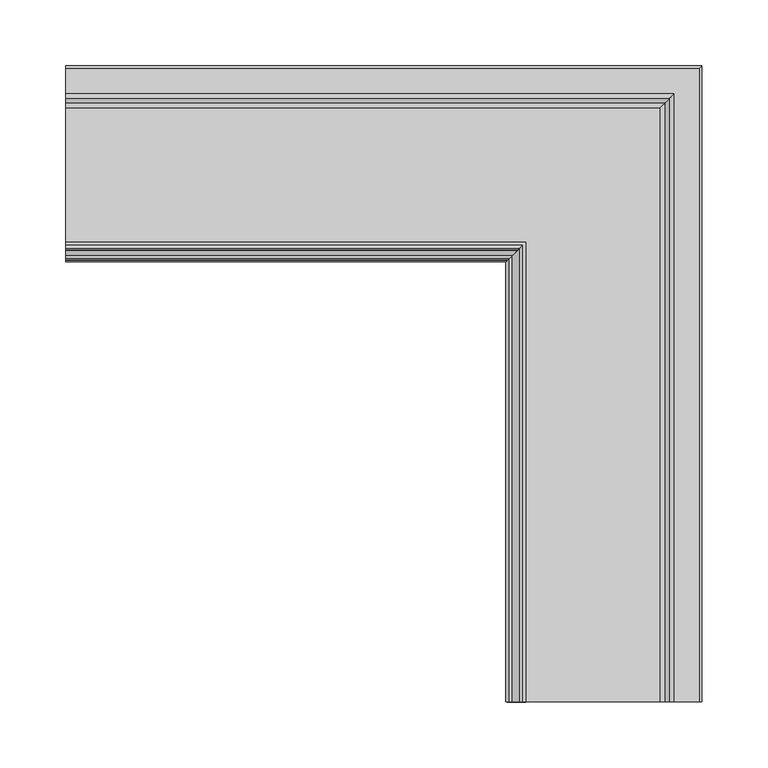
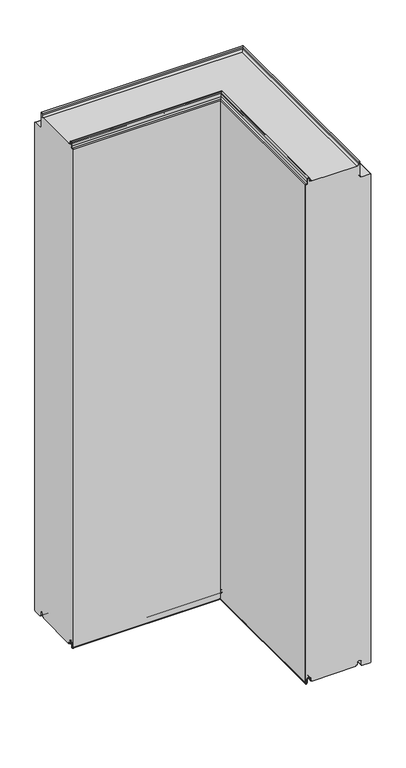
"""IFC4 building model written with IfcOpenShell, lengths in millimetres: plate geometry, Угловой модуль Fronttop : Угловой модуль Fronttop 150/1200."""

from ifc_helpers import new_model, si_unit, frame, origin, place, context, project, spatial, polyline, circle_curve, ellipse_curve, source, transform, mapped, element, save
from ifc_brep_helpers import plane_surface, cylinder_surface, revolved_surface, advanced_brep


def plate_a08c5f0f(model_context):
    return source(origin(), model_context, "Body", "AdvancedBrep", [
        advanced_brep(
        [(-234.5, 15.0, 3.0), (-234.5, 13.0, 3.0), (-234.5, 12.0, 4.0), (-234.5, 12.0, 8.0), (-234.5, 3.0, 8.0), (-234.5, 3.0, -0.5), (-234.5, 1.0, -0.5), (-234.5, 1.0, 1195.0278643), (-234.5, 2.1111111, 1196.0216723), (-234.5, 6.0, 1199.5), (-234.5, 6.0, 1208.0), (-234.5, 9.0, 1208.0), (-234.5, 9.0, 1204.0), (-234.5, 13.0, 1200.0), (-234.5, 117.0, 1200.0), (-234.5, 121.0, 1204.0), (-234.5, 121.0, 1208.0), (-234.5, 124.0, 1208.0), (-234.5, 124.0, 1175.0), (-234.5, 128.0, 1171.0), (-234.5, 147.0, 1171.0), (-234.5, 149.0, 1169.0), (-234.5, 149.0, 0.0), (-234.5, 147.0, -2.0), (-234.5, 129.0, -2.0), (-234.5, 127.0, 0.0), (-234.5, 127.0, 8.0), (-234.5, 118.0, 8.0), (-234.5, 118.0, 4.0), (-234.5, 117.0, 3.0), (-234.5, 115.0, 3.0), (-234.5, 115.0, 0.0), (-234.5, 15.0, 0.0), (115.0, 15.0, 0.0), (115.0, 15.0, 3.0), (215.0, 115.0, 0.0), (215.0, -334.5, 0.0), (115.0, -334.5, 0.0), (215.0, 115.0, 3.0), (217.0, 117.0, 3.0), (217.0, -334.5, 3.0), (215.0, -334.5, 3.0), (218.0, 118.0, 4.0), (218.0, 118.0, 8.0), (227.0, 127.0, 8.0), (227.0, 127.0, 0.0), (229.0, 129.0, -2.0), (247.0, 147.0, -2.0), (247.0, -334.5, -2.0), (229.0, -334.5, -2.0), (249.0, 149.0, 0.0), (249.0, 149.0, 1169.0), (247.0, 147.0, 1171.0), (228.0, 128.0, 1171.0), (228.0, -334.5, 1171.0), (247.0, -334.5, 1171.0), (224.0, 124.0, 1175.0), (224.0, 124.0, 1208.0), (221.0, 121.0, 1208.0), (221.0, 121.0, 1204.0), (217.0, 117.0, 1200.0), (113.0, 13.0, 1200.0), (113.0, -334.5, 1200.0), (217.0, -334.5, 1200.0), (109.0, 9.0, 1204.0), (109.0, 9.0, 1208.0), (106.0, 6.0, 1208.0), (106.0, 6.0, 1199.5), (102.1111111, 2.1111111, 1196.021672), (101.0, 1.0, 1195.0278643), (101.0, 1.0, -0.5), (103.0, 3.0, -0.5), (103.0, 3.0, 8.0), (112.0, 12.0, 8.0), (112.0, 12.0, 4.0), (113.0, 13.0, 3.0), (115.0, -334.5, 3.0), (113.0, -334.5, 3.0), (218.0, -334.5, 4.0), (218.0, -334.5, 8.0), (227.0, -334.5, 8.0), (227.0, -334.5, 0.0), (249.0, -334.5, 0.0), (249.0, -334.5, 1169.0), (224.0, -334.5, 1175.0), (224.0, -334.5, 1208.0), (221.0, -334.5, 1208.0), (221.0, -334.5, 1204.0), (109.0, -334.5, 1204.0), (109.0, -334.5, 1208.0), (106.0, -334.5, 1208.0), (106.0, -334.5, 1199.5), (102.1111111, -334.5, 1196.021672), (101.0, -334.5, 1195.0278643), (101.0, -334.5, -0.5), (103.0, -334.5, -0.5), (103.0, -334.5, 8.0), (112.0, -334.5, 8.0), (112.0, -334.5, 4.0)],
        [
            (0, 1),
            (1, 2, circle_curve(frame((-234.5, 13.0, 4.0), z_axis=(-1.0, 0.0, 0.0), x_axis=(0.0, -1.0, 0.0)), 1.0)),
            (2, 3),
            (3, 4, circle_curve(frame((-234.5, 7.5, 8.0), z_axis=(1.0, 0.0, 0.0), x_axis=(0.0, -1.0, 0.0)), 4.5)),
            (4, 5),
            (5, 6, circle_curve(frame((-234.5, 2.0, -0.5), z_axis=(-1.0, 0.0, 0.0), x_axis=(0.0, -1.0, 0.0)), 1.0)),
            (6, 7),
            (7, 8, circle_curve(frame((-234.5, 2.0, 1195.0278643), z_axis=(-1.0, 0.0, 0.0), x_axis=(0.0, -1.0, 0.0)), 1.0)),
            (8, 9, circle_curve(frame((-234.5, 2.5, 1199.5), z_axis=(1.0, 0.0, 0.0), x_axis=(0.0, -1.0, 0.0)), 3.5)),
            (9, 10),
            (10, 11, circle_curve(frame((-234.5, 7.5, 1208.0), z_axis=(-1.0, 0.0, 0.0), x_axis=(0.0, -1.0, 0.0)), 1.5)),
            (11, 12),
            (12, 13, circle_curve(frame((-234.5, 13.0, 1204.0), z_axis=(1.0, 0.0, 0.0), x_axis=(0.0, -1.0, 0.0)), 4.0)),
            (13, 14),
            (14, 15, circle_curve(frame((-234.5, 117.0, 1204.0), z_axis=(1.0, 0.0, 0.0), x_axis=(0.0, -1.0, 0.0)), 4.0)),
            (15, 16),
            (16, 17, circle_curve(frame((-234.5, 122.5, 1208.0), z_axis=(-1.0, 0.0, 0.0), x_axis=(0.0, -1.0, 0.0)), 1.5)),
            (17, 18),
            (18, 19, circle_curve(frame((-234.5, 128.0, 1175.0), z_axis=(1.0, 0.0, 0.0), x_axis=(0.0, -1.0, 0.0)), 4.0)),
            (19, 20),
            (20, 21, circle_curve(frame((-234.5, 147.0, 1169.0), z_axis=(-1.0, 0.0, 0.0), x_axis=(0.0, -1.0, 0.0)), 2.0)),
            (21, 22),
            (22, 23, circle_curve(frame((-234.5, 147.0, 0.0), z_axis=(-1.0, 0.0, 0.0), x_axis=(0.0, -1.0, 0.0)), 2.0)),
            (23, 24),
            (24, 25, circle_curve(frame((-234.5, 129.0, 0.0), z_axis=(-1.0, 0.0, 0.0), x_axis=(0.0, -1.0, 0.0)), 2.0)),
            (25, 26),
            (26, 27, circle_curve(frame((-234.5, 122.5, 8.0), z_axis=(1.0, 0.0, 0.0), x_axis=(0.0, -1.0, 0.0)), 4.5)),
            (27, 28),
            (28, 29, circle_curve(frame((-234.5, 117.0, 4.0), z_axis=(-1.0, 0.0, 0.0), x_axis=(0.0, -1.0, 0.0)), 1.0)),
            (29, 30),
            (30, 31),
            (31, 32),
            (32, 0),
            (32, 33),
            (33, 34),
            (34, 0),
            (31, 35),
            (35, 36),
            (36, 37),
            (37, 33),
            (30, 38),
            (38, 35),
            (29, 39),
            (39, 40),
            (40, 41),
            (41, 38),
            (28, 42),
            (42, 39, ellipse_curve(frame((217.0, 117.0, 4.0), z_axis=(-0.7071067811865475, 0.7071067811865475, 0.0), x_axis=(-0.7071067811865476, -0.7071067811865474, 0.0)), 1.4142136, 1.0)),
            (27, 43),
            (43, 42),
            (26, 44),
            (44, 43, ellipse_curve(frame((222.5, 122.5, 8.0), z_axis=(0.7071067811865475, -0.7071067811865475, 0.0), x_axis=(0.7071067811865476, 0.7071067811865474, 0.0)), 6.363961, 4.5)),
            (25, 45),
            (45, 44),
            (24, 46),
            (46, 45, ellipse_curve(frame((229.0, 129.0, 0.0), z_axis=(-0.7071067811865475, 0.7071067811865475, 0.0), x_axis=(-0.7071067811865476, -0.7071067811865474, 0.0)), 2.8284271, 2.0)),
            (23, 47),
            (47, 48),
            (48, 49),
            (49, 46),
            (22, 50),
            (50, 47, ellipse_curve(frame((247.0, 147.0, 0.0), z_axis=(-0.7071067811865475, 0.7071067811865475, 0.0), x_axis=(-0.7071067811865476, -0.7071067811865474, 0.0)), 2.8284271, 2.0)),
            (21, 51),
            (51, 50),
            (20, 52),
            (52, 51, ellipse_curve(frame((247.0, 147.0, 1169.0), z_axis=(-0.7071067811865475, 0.7071067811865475, 0.0), x_axis=(-0.7071067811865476, -0.7071067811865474, 0.0)), 2.8284271, 2.0)),
            (19, 53),
            (53, 54),
            (54, 55),
            (55, 52),
            (18, 56),
            (56, 53, ellipse_curve(frame((228.0, 128.0, 1175.0), z_axis=(0.7071067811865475, -0.7071067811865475, 0.0), x_axis=(0.7071067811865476, 0.7071067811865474, 0.0)), 5.6568542, 4.0)),
            (17, 57),
            (57, 56),
            (16, 58),
            (58, 57, ellipse_curve(frame((222.5, 122.5, 1208.0), z_axis=(-0.7071067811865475, 0.7071067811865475, 0.0), x_axis=(-0.7071067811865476, -0.7071067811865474, 0.0)), 2.1213203, 1.5)),
            (15, 59),
            (59, 58),
            (14, 60),
            (60, 59, ellipse_curve(frame((217.0, 117.0, 1204.0), z_axis=(0.7071067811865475, -0.7071067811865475, 0.0), x_axis=(0.7071067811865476, 0.7071067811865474, 0.0)), 5.6568542, 4.0)),
            (13, 61),
            (61, 62),
            (62, 63),
            (63, 60),
            (12, 64),
            (64, 61, ellipse_curve(frame((113.0, 13.0, 1204.0), z_axis=(0.7071067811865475, -0.7071067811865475, 0.0), x_axis=(0.7071067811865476, 0.7071067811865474, 0.0)), 5.6568542, 4.0)),
            (11, 65),
            (65, 64),
            (10, 66),
            (66, 65, ellipse_curve(frame((107.5, 7.5, 1208.0), z_axis=(-0.7071067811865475, 0.7071067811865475, 0.0), x_axis=(-0.7071067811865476, -0.7071067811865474, 0.0)), 2.1213204, 1.5)),
            (9, 67),
            (67, 66),
            (8, 68),
            (68, 67, ellipse_curve(frame((102.5, 2.5, 1199.5), z_axis=(0.7071067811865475, -0.7071067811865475, 0.0), x_axis=(0.7071067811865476, 0.7071067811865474, 0.0)), 4.9497475, 3.5)),
            (7, 69),
            (69, 68, ellipse_curve(frame((102.0, 2.0, 1195.0278643), z_axis=(-0.7071067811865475, 0.7071067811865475, 0.0), x_axis=(-0.7071067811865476, -0.7071067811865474, 0.0)), 1.4142136, 1.0)),
            (6, 70),
            (70, 69),
            (5, 71),
            (71, 70, ellipse_curve(frame((102.0, 2.0, -0.5), z_axis=(-0.7071067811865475, 0.7071067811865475, 0.0), x_axis=(-0.7071067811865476, -0.7071067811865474, 0.0)), 1.4142136, 1.0)),
            (4, 72),
            (72, 71),
            (3, 73),
            (73, 72, ellipse_curve(frame((107.5, 7.5, 8.0), z_axis=(0.7071067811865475, -0.7071067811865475, 0.0), x_axis=(0.7071067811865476, 0.7071067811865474, 0.0)), 6.363961, 4.5)),
            (2, 74),
            (74, 73),
            (1, 75),
            (75, 74, ellipse_curve(frame((113.0, 13.0, 4.0), z_axis=(-0.7071067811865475, 0.7071067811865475, 0.0), x_axis=(-0.7071067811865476, -0.7071067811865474, 0.0)), 1.4142136, 1.0)),
            (34, 76),
            (76, 77),
            (77, 75),
            (76, 37),
            (36, 41),
            (40, 78, circle_curve(frame((217.0, -334.5, 4.0), z_axis=(0.0, -1.0, 0.0), x_axis=(-1.0, 0.0, 0.0)), 1.0)),
            (78, 79),
            (79, 80, circle_curve(frame((222.5, -334.5, 8.0), z_axis=(0.0, 1.0, 0.0), x_axis=(-1.0, 0.0, 0.0)), 4.5)),
            (80, 81),
            (81, 49, circle_curve(frame((229.0, -334.5, 0.0), z_axis=(0.0, -1.0, 0.0), x_axis=(-1.0, 0.0, 0.0)), 2.0)),
            (48, 82, circle_curve(frame((247.0, -334.5, 0.0), z_axis=(0.0, -1.0, 0.0), x_axis=(-1.0, 0.0, 0.0)), 2.0)),
            (82, 83),
            (83, 55, circle_curve(frame((247.0, -334.5, 1169.0), z_axis=(0.0, -1.0, 0.0), x_axis=(-1.0, 0.0, 0.0)), 2.0)),
            (54, 84, circle_curve(frame((228.0, -334.5, 1175.0), z_axis=(0.0, 1.0, 0.0), x_axis=(-1.0, 0.0, 0.0)), 4.0)),
            (84, 85),
            (85, 86, circle_curve(frame((222.5, -334.5, 1208.0), z_axis=(0.0, -1.0, 0.0), x_axis=(-1.0, 0.0, 0.0)), 1.5)),
            (86, 87),
            (87, 63, circle_curve(frame((217.0, -334.5, 1204.0), z_axis=(0.0, 1.0, 0.0), x_axis=(-1.0, 0.0, 0.0)), 4.0)),
            (62, 88, circle_curve(frame((113.0, -334.5, 1204.0), z_axis=(0.0, 1.0, 0.0), x_axis=(-1.0, 0.0, 0.0)), 4.0)),
            (88, 89),
            (89, 90, circle_curve(frame((107.5, -334.5, 1208.0), z_axis=(0.0, -1.0, 0.0), x_axis=(-1.0, 0.0, 0.0)), 1.5)),
            (90, 91),
            (91, 92, circle_curve(frame((102.5, -334.5, 1199.5), z_axis=(0.0, 1.0, 0.0), x_axis=(-1.0, 0.0, 0.0)), 3.5)),
            (92, 93, circle_curve(frame((102.0, -334.5, 1195.0278643), z_axis=(0.0, -1.0, 0.0), x_axis=(-1.0, 0.0, 0.0)), 1.0)),
            (93, 94),
            (94, 95, circle_curve(frame((102.0, -334.5, -0.5), z_axis=(0.0, -1.0, 0.0), x_axis=(-1.0, 0.0, 0.0)), 1.0)),
            (95, 96),
            (96, 97, circle_curve(frame((107.5, -334.5, 8.0), z_axis=(0.0, 1.0, 0.0), x_axis=(-1.0, 0.0, 0.0)), 4.5)),
            (97, 98),
            (98, 77, circle_curve(frame((113.0, -334.5, 4.0), z_axis=(0.0, -1.0, 0.0), x_axis=(-1.0, 0.0, 0.0)), 1.0)),
            (42, 78),
            (43, 79),
            (44, 80),
            (45, 81),
            (50, 82),
            (51, 83),
            (56, 84),
            (57, 85),
            (58, 86),
            (59, 87),
            (64, 88),
            (65, 89),
            (66, 90),
            (67, 91),
            (68, 92),
            (69, 93),
            (70, 94),
            (71, 95),
            (72, 96),
            (73, 97),
            (74, 98),
        ],
        [
            plane_surface(frame((-234.5, 0.0, 0.0), z_axis=(-1.0, 0.0, 0.0), x_axis=(0.0, 0.0, 1.0))),
            plane_surface(frame((-234.5, 15.0, 0.0), z_axis=(0.0, -1.0, 0.0), x_axis=(1.0, 0.0, 0.0))),
            plane_surface(frame((-234.5, 115.0, 0.0), z_axis=(0.0, 0.0, -1.0), x_axis=(1.0, 0.0, 0.0))),
            plane_surface(frame((-234.5, 115.0, 3.0), z_axis=(0.0, 1.0, 0.0), x_axis=(1.0, 0.0, 0.0))),
            plane_surface(frame((-234.5, 117.0, 3.0), z_axis=(0.0, 0.0, -1.0), x_axis=(1.0, 0.0, 0.0))),
            cylinder_surface(frame((-234.5, 117.0, 4.0), z_axis=(-1.0, 0.0, 0.0), x_axis=(0.0, -1.0, 0.0)), 1.0),
            plane_surface(frame((-234.5, 118.0, 8.0), z_axis=(0.0, 1.0, 0.0), x_axis=(1.0, 0.0, 0.0))),
            revolved_surface(polyline([(227.0, 118.0, 8.0), (-234.5, 118.0, 8.0)]), (-234.5, 122.5, 8.0), (1.0, 0.0, 0.0)),
            plane_surface(frame((-234.5, 127.0, 0.0), z_axis=(0.0, -1.0, 0.0), x_axis=(1.0, 0.0, 0.0))),
            cylinder_surface(frame((-234.5, 129.0, 0.0), z_axis=(-1.0, 0.0, 0.0), x_axis=(0.0, -1.0, 0.0)), 2.0),
            plane_surface(frame((-234.5, 147.0, -2.0), z_axis=(0.0, 0.0, -1.0), x_axis=(1.0, 0.0, 0.0))),
            cylinder_surface(frame((-234.5, 147.0, 0.0), z_axis=(-1.0, 0.0, 0.0), x_axis=(0.0, -1.0, 0.0)), 2.0),
            plane_surface(frame((-234.5, 149.0, 1169.0), z_axis=(0.0, 1.0, 0.0), x_axis=(1.0, 0.0, 0.0))),
            cylinder_surface(frame((-234.5, 147.0, 1169.0), z_axis=(-1.0, 0.0, 0.0), x_axis=(0.0, -1.0, 0.0)), 2.0),
            plane_surface(frame((-234.5, 128.0, 1171.0), z_axis=(0.0, 0.0, 1.0), x_axis=(1.0, 0.0, 0.0))),
            revolved_surface(polyline([(231.9999999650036, 124.0, 1175.0), (-234.5, 124.0, 1175.0)]), (-234.5, 128.0, 1175.0), (1.0, 0.0, 0.0)),
            plane_surface(frame((-234.5, 124.0, 1208.0), z_axis=(0.0, 1.0, 0.0), x_axis=(1.0, 0.0, 0.0))),
            cylinder_surface(frame((-234.5, 122.5, 1208.0), z_axis=(-1.0, 0.0, 0.0), x_axis=(0.0, -1.0, 0.0)), 1.5),
            plane_surface(frame((-234.5, 121.0, 1204.0), z_axis=(0.0, -1.0, 0.0), x_axis=(1.0, 0.0, 0.0))),
            revolved_surface(polyline([(221.0, 113.0, 1204.0), (-234.5, 113.0, 1204.0)]), (-234.5, 117.0, 1204.0), (1.0, 0.0, 0.0)),
            plane_surface(frame((-234.5, 13.0, 1200.0), z_axis=(0.0, 0.0, 1.0), x_axis=(1.0, 0.0, 0.0))),
            revolved_surface(polyline([(116.99999996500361, 9.0, 1204.0), (-234.5, 9.0, 1204.0)]), (-234.5, 13.0, 1204.0), (1.0, 0.0, 0.0)),
            plane_surface(frame((-234.5, 9.0, 1208.0), z_axis=(0.0, 1.0, 0.0), x_axis=(1.0, 0.0, 0.0))),
            cylinder_surface(frame((-234.5, 7.5, 1208.0), z_axis=(-1.0, 0.0, 0.0), x_axis=(0.0, -1.0, 0.0)), 1.5),
            plane_surface(frame((-234.5, 6.0, 1199.5), z_axis=(0.0, -1.0, 0.0), x_axis=(1.0, 0.0, 0.0))),
            revolved_surface(polyline([(106.00000002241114, -1.0, 1199.5), (-234.5, -1.0, 1199.5)]), (-234.5, 2.5, 1199.5), (1.0, 0.0, 0.0)),
            cylinder_surface(frame((-234.5, 2.0, 1195.0278643), z_axis=(-1.0, 0.0, 0.0), x_axis=(0.0, -1.0, 0.0)), 1.0),
            plane_surface(frame((-234.5, 1.0, -0.5), z_axis=(0.0, -1.0, 0.0), x_axis=(1.0, 0.0, 0.0))),
            cylinder_surface(frame((-234.5, 2.0, -0.5), z_axis=(-1.0, 0.0, 0.0), x_axis=(0.0, -1.0, 0.0)), 1.0),
            plane_surface(frame((-234.5, 3.0, 8.0), z_axis=(0.0, 1.0, 0.0), x_axis=(1.0, 0.0, 0.0))),
            revolved_surface(polyline([(112.0, 3.0, 8.0), (-234.5, 3.0, 8.0)]), (-234.5, 7.5, 8.0), (1.0, 0.0, 0.0)),
            plane_surface(frame((-234.5, 12.0, 4.0), z_axis=(0.0, -1.0, 0.0), x_axis=(1.0, 0.0, 0.0))),
            cylinder_surface(frame((-234.5, 13.0, 4.0), z_axis=(-1.0, 0.0, 0.0), x_axis=(0.0, -1.0, 0.0)), 1.0),
            plane_surface(frame((-234.5, 15.0, 3.0), z_axis=(0.0, 0.0, -1.0), x_axis=(1.0, 0.0, 0.0))),
            plane_surface(frame((100.0, -334.5, 0.0), z_axis=(0.0, -1.0, 0.0), x_axis=(0.0, 0.0, 1.0))),
            plane_surface(frame((115.0, 15.0, 0.0), z_axis=(-1.0, 0.0, 0.0), x_axis=(0.0, -1.0, 0.0))),
            plane_surface(frame((215.0, 115.0, 3.0), z_axis=(1.0, 0.0, 0.0), x_axis=(0.0, -1.0, 0.0))),
            cylinder_surface(frame((217.0, 0.0, 4.0), z_axis=(0.0, 1.0, 0.0), x_axis=(-1.0, 0.0, 0.0)), 1.0),
            plane_surface(frame((218.0, 118.0, 8.0), z_axis=(1.0, 0.0, 0.0), x_axis=(0.0, -1.0, 0.0))),
            revolved_surface(polyline([(218.0, -334.5, 8.0), (218.0, 127.0, 8.0)]), (222.5, 0.0, 8.0), (0.0, -1.0, 0.0)),
            plane_surface(frame((227.0, 127.0, 0.0), z_axis=(-1.0, 0.0, 0.0), x_axis=(0.0, -1.0, 0.0))),
            cylinder_surface(frame((229.0, 0.0, 0.0), z_axis=(0.0, 1.0, 0.0), x_axis=(-1.0, 0.0, 0.0)), 2.0),
            cylinder_surface(frame((247.0, 0.0, 0.0), z_axis=(0.0, 1.0, 0.0), x_axis=(-1.0, 0.0, 0.0)), 2.0),
            plane_surface(frame((249.0, 149.0, 1169.0), z_axis=(1.0, 0.0, 0.0), x_axis=(0.0, -1.0, 0.0))),
            cylinder_surface(frame((247.0, 0.0, 1169.0), z_axis=(0.0, 1.0, 0.0), x_axis=(-1.0, 0.0, 0.0)), 2.0),
            revolved_surface(polyline([(224.0, -334.5, 1175.0), (224.0, 131.9999999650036, 1175.0)]), (228.0, 0.0, 1175.0), (0.0, -1.0, 0.0)),
            plane_surface(frame((224.0, 124.0, 1208.0), z_axis=(1.0, 0.0, 0.0), x_axis=(0.0, -1.0, 0.0))),
            cylinder_surface(frame((222.5, 0.0, 1208.0), z_axis=(0.0, 1.0, 0.0), x_axis=(-1.0, 0.0, 0.0)), 1.5),
            plane_surface(frame((221.0, 121.0, 1204.0), z_axis=(-1.0, 0.0, 0.0), x_axis=(0.0, -1.0, 0.0))),
            revolved_surface(polyline([(213.0, -334.5, 1204.0), (213.0, 121.0, 1204.0)]), (217.0, 0.0, 1204.0), (0.0, -1.0, 0.0)),
            revolved_surface(polyline([(109.0, -334.5, 1204.0), (109.0, 16.999999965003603, 1204.0)]), (113.0, 0.0, 1204.0), (0.0, -1.0, 0.0)),
            plane_surface(frame((109.0, 9.0, 1208.0), z_axis=(1.0, 0.0, 0.0), x_axis=(0.0, -1.0, 0.0))),
            cylinder_surface(frame((107.5, 0.0, 1208.0), z_axis=(0.0, 1.0, 0.0), x_axis=(-1.0, 0.0, 0.0)), 1.5),
            plane_surface(frame((106.0, 6.0, 1199.5), z_axis=(-1.0, 0.0, 0.0), x_axis=(0.0, -1.0, 0.0))),
            revolved_surface(polyline([(99.0, -334.5, 1199.5), (99.0, 6.000000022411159, 1199.5)]), (102.5, 0.0, 1199.5), (0.0, -1.0, 0.0)),
            cylinder_surface(frame((102.0, 0.0, 1195.0278643), z_axis=(0.0, 1.0, 0.0), x_axis=(-1.0, 0.0, 0.0)), 1.0),
            plane_surface(frame((101.0, 1.0, -0.5), z_axis=(-1.0, 0.0, 0.0), x_axis=(0.0, -1.0, 0.0))),
            cylinder_surface(frame((102.0, 0.0, -0.5), z_axis=(0.0, 1.0, 0.0), x_axis=(-1.0, 0.0, 0.0)), 1.0),
            plane_surface(frame((103.0, 3.0, 8.0), z_axis=(1.0, 0.0, 0.0), x_axis=(0.0, -1.0, 0.0))),
            revolved_surface(polyline([(103.0, -334.5, 8.0), (103.0, 12.0, 8.0)]), (107.5, 0.0, 8.0), (0.0, -1.0, 0.0)),
            plane_surface(frame((112.0, 12.0, 4.0), z_axis=(-1.0, 0.0, 0.0), x_axis=(0.0, -1.0, 0.0))),
            cylinder_surface(frame((113.0, 0.0, 4.0), z_axis=(0.0, 1.0, 0.0), x_axis=(-1.0, 0.0, 0.0)), 1.0),
        ],
        [
            (0, [[1, 2, 3, 4, 5, 6, 7, 8, 9, 10, 11, 12, 13, 14, 15, 16, 17, 18, 19, 20, 21, 22, 23, 24, 25, 26, 27, 28, 29, 30, 31, 32, 33]]),
            (1, [[-33, 34, 35, 36]]),
            (2, [[-32, 37, 38, 39, 40, -34]]),
            (3, [[-31, 41, 42, -37]]),
            (4, [[-30, 43, 44, 45, 46, -41]]),
            (5, [[-29, 47, 48, -43]]),
            (6, [[-28, 49, 50, -47]]),
            (7, [[-27, 51, 52, -49]]),
            (8, [[-26, 53, 54, -51]]),
            (9, [[-25, 55, 56, -53]]),
            (10, [[-24, 57, 58, 59, 60, -55]]),
            (11, [[-23, 61, 62, -57]]),
            (12, [[-22, 63, 64, -61]]),
            (13, [[-21, 65, 66, -63]]),
            (14, [[-20, 67, 68, 69, 70, -65]]),
            (15, [[-19, 71, 72, -67]]),
            (16, [[-18, 73, 74, -71]]),
            (17, [[-17, 75, 76, -73]]),
            (18, [[-16, 77, 78, -75]]),
            (19, [[-15, 79, 80, -77]]),
            (20, [[-14, 81, 82, 83, 84, -79]]),
            (21, [[-13, 85, 86, -81]]),
            (22, [[-12, 87, 88, -85]]),
            (23, [[-11, 89, 90, -87]]),
            (24, [[-10, 91, 92, -89]]),
            (25, [[-9, 93, 94, -91]]),
            (26, [[-8, 95, 96, -93]]),
            (27, [[-7, 97, 98, -95]]),
            (28, [[-6, 99, 100, -97]]),
            (29, [[-5, 101, 102, -99]]),
            (30, [[-4, 103, 104, -101]]),
            (31, [[-3, 105, 106, -103]]),
            (32, [[-2, 107, 108, -105]]),
            (33, [[-1, -36, 109, 110, 111, -107]]),
            (34, [[112, -39, 113, -45, 114, 115, 116, 117, 118, -59, 119, 120, 121, -69, 122, 123, 124, 125, 126, -83, 127, 128, 129, 130, 131, 132, 133, 134, 135, 136, 137, 138, -110]]),
            (35, [[-35, -40, -112, -109]]),
            (36, [[-42, -46, -113, -38]]),
            (37, [[-48, 139, -114, -44]]),
            (38, [[-50, 140, -115, -139]]),
            (39, [[-52, 141, -116, -140]]),
            (40, [[-54, 142, -117, -141]]),
            (41, [[-56, -60, -118, -142]]),
            (42, [[-62, 143, -119, -58]]),
            (43, [[-64, 144, -120, -143]]),
            (44, [[-66, -70, -121, -144]]),
            (45, [[-72, 145, -122, -68]]),
            (46, [[-74, 146, -123, -145]]),
            (47, [[-76, 147, -124, -146]]),
            (48, [[-78, 148, -125, -147]]),
            (49, [[-80, -84, -126, -148]]),
            (50, [[-86, 149, -127, -82]]),
            (51, [[-88, 150, -128, -149]]),
            (52, [[-90, 151, -129, -150]]),
            (53, [[-92, 152, -130, -151]]),
            (54, [[-94, 153, -131, -152]]),
            (55, [[-96, 154, -132, -153]]),
            (56, [[-98, 155, -133, -154]]),
            (57, [[-100, 156, -134, -155]]),
            (58, [[-102, 157, -135, -156]]),
            (59, [[-104, 158, -136, -157]]),
            (60, [[-106, 159, -137, -158]]),
            (61, [[-108, -111, -138, -159]]),
        ],
    ),
        advanced_brep(
        [(-234.5, 13.0, 1201.0), (-234.5, 15.0, 1201.0), (-234.5, 15.0, 1200.0), (-234.5, 13.0, 1200.0), (-234.5, 9.0, 1204.0), (-234.5, 9.0, 1208.0), (-234.5, 6.0, 1208.0), (-234.5, 6.0, 1199.5), (-234.5, 2.1134897, 1196.0214069), (-234.5, 1.0, 1195.0), (-234.5, 1.0, -0.5), (-234.5, 3.0, -0.5), (-234.5, 3.0, 8.0), (-234.5, 12.0, 8.0), (-234.5, 12.0, 4.0), (-234.5, 13.0, 3.0), (-234.5, 15.0, 3.0), (-234.5, 15.0, 2.0), (-234.5, 13.0, 2.0), (-234.5, 11.0, 4.0), (-234.5, 11.0, 8.0), (-234.5, 4.0, 8.0), (-234.5, 4.0, -0.5), (-234.5, 0.0, -0.5), (-234.5, 0.0, 1195.0), (-234.5, 2.220863, 1196.9877675), (-234.5, 5.0, 1199.5), (-234.5, 5.0, 1208.0), (-234.5, 10.0, 1208.0), (-234.5, 10.0, 1204.0), (113.0, 13.0, 1201.0), (113.0, -334.5, 1201.0), (115.0, -334.5, 1201.0), (115.0, 15.0, 1201.0), (115.0, 15.0, 1200.0), (115.0, -334.5, 1200.0), (113.0, -334.5, 1200.0), (113.0, 13.0, 1200.0), (109.0, 9.0, 1204.0), (109.0, 9.0, 1208.0), (106.0, 6.0, 1208.0), (106.0, 6.0, 1199.5), (102.1134897, 2.1134897, 1196.0214069), (101.0, 1.0, 1195.0), (101.0, 1.0, -0.5), (103.0, 3.0, -0.5), (103.0, 3.0, 8.0), (112.0, 12.0, 8.0), (112.0, 12.0, 4.0), (113.0, 13.0, 3.0), (113.0, -334.5, 3.0), (115.0, -334.5, 3.0), (115.0, 15.0, 3.0), (115.0, 15.0, 2.0), (115.0, -334.5, 2.0), (113.0, -334.5, 2.0), (113.0, 13.0, 2.0), (111.0, 11.0, 4.0), (111.0, 11.0, 8.0), (104.0, 4.0, 8.0), (104.0, 4.0, -0.5), (100.0, 0.0, -0.5), (100.0, 0.0, 1195.0), (102.220863, 2.220863, 1196.9877675), (105.0, 5.0, 1199.5), (105.0, 5.0, 1208.0), (110.0, 10.0, 1208.0), (110.0, 10.0, 1204.0), (110.0, -334.5, 1204.0), (110.0, -334.5, 1208.0), (105.0, -334.5, 1208.0), (105.0, -334.5, 1199.5), (102.2239212, -334.5, 1197.0152907), (100.0, -334.5, 1195.0), (100.0, -334.5, -0.5), (104.0, -334.5, -0.5), (104.0, -334.5, 8.0), (111.0, -334.5, 8.0), (111.0, -334.5, 4.0), (112.0, -334.5, 4.0), (112.0, -334.5, 8.0), (103.0, -334.5, 8.0), (103.0, -334.5, -0.5), (101.0, -334.5, -0.5), (101.0, -334.5, 1195.0), (102.1104315, -334.5, 1195.9938837), (106.0, -334.5, 1199.5), (106.0, -334.5, 1208.0), (109.0, -334.5, 1208.0), (109.0, -334.5, 1204.0)],
        [
            (0, 1),
            (1, 2),
            (2, 3),
            (3, 4, circle_curve(frame((-234.5, 13.0, 1204.0), z_axis=(-1.0, 0.0, 0.0), x_axis=(0.0, -1.0, 0.0)), 4.0)),
            (4, 5),
            (5, 6, circle_curve(frame((-234.5, 7.5, 1208.0), z_axis=(1.0, 0.0, 0.0), x_axis=(0.0, -1.0, 0.0)), 1.5)),
            (6, 7),
            (7, 8, circle_curve(frame((-234.5, 2.5, 1199.5), z_axis=(-1.0, 0.0, 0.0), x_axis=(0.0, -1.0, 0.0)), 3.5)),
            (8, 9, circle_curve(frame((-234.5, 2.0, 1195.0), z_axis=(1.0, 0.0, 0.0), x_axis=(0.0, -1.0, 0.0)), 1.0)),
            (9, 10),
            (10, 11, circle_curve(frame((-234.5, 2.0, -0.5), z_axis=(1.0, 0.0, 0.0), x_axis=(0.0, -1.0, 0.0)), 1.0)),
            (11, 12),
            (12, 13, circle_curve(frame((-234.5, 7.5, 8.0), z_axis=(-1.0, 0.0, 0.0), x_axis=(0.0, -1.0, 0.0)), 4.5)),
            (13, 14),
            (14, 15, circle_curve(frame((-234.5, 13.0, 4.0), z_axis=(1.0, 0.0, 0.0), x_axis=(0.0, -1.0, 0.0)), 1.0)),
            (15, 16),
            (16, 17),
            (17, 18),
            (18, 19, circle_curve(frame((-234.5, 13.0, 4.0), z_axis=(-1.0, 0.0, 0.0), x_axis=(0.0, -1.0, 0.0)), 2.0)),
            (19, 20),
            (20, 21, circle_curve(frame((-234.5, 7.5, 8.0), z_axis=(1.0, 0.0, 0.0), x_axis=(0.0, -1.0, 0.0)), 3.5)),
            (21, 22),
            (22, 23, circle_curve(frame((-234.5, 2.0, -0.5), z_axis=(-1.0, 0.0, 0.0), x_axis=(0.0, -1.0, 0.0)), 2.0)),
            (23, 24),
            (24, 25, circle_curve(frame((-234.5, 2.0, 1195.0), z_axis=(-1.0, 0.0, 0.0), x_axis=(0.0, -1.0, 0.0)), 2.0)),
            (25, 26, circle_curve(frame((-234.5, 2.5, 1199.5), z_axis=(1.0, 0.0, 0.0), x_axis=(0.0, -1.0, 0.0)), 2.5)),
            (26, 27),
            (27, 28, circle_curve(frame((-234.5, 7.5, 1208.0), z_axis=(-1.0, 0.0, 0.0), x_axis=(0.0, -1.0, 0.0)), 2.5)),
            (28, 29),
            (29, 0, circle_curve(frame((-234.5, 13.0, 1204.0), z_axis=(1.0, 0.0, 0.0), x_axis=(0.0, -1.0, 0.0)), 3.0)),
            (0, 30),
            (30, 31),
            (31, 32),
            (32, 33),
            (33, 1),
            (33, 34),
            (34, 2),
            (34, 35),
            (35, 36),
            (36, 37),
            (37, 3),
            (37, 38, ellipse_curve(frame((113.0, 13.0, 1204.0), z_axis=(-0.7071067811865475, 0.7071067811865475, 0.0), x_axis=(-0.7071067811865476, -0.7071067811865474, 0.0)), 5.6568542, 4.0)),
            (38, 4),
            (38, 39),
            (39, 5),
            (39, 40, ellipse_curve(frame((107.5, 7.5, 1208.0), z_axis=(0.7071067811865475, -0.7071067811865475, 0.0), x_axis=(0.7071067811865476, 0.7071067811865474, 0.0)), 2.1213204, 1.5)),
            (40, 6),
            (40, 41),
            (41, 7),
            (41, 42, ellipse_curve(frame((102.5, 2.5, 1199.5), z_axis=(-0.7071067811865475, 0.7071067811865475, 0.0), x_axis=(-0.7071067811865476, -0.7071067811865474, 0.0)), 4.9497475, 3.5)),
            (42, 8),
            (42, 43, ellipse_curve(frame((102.0, 2.0, 1195.0), z_axis=(0.7071067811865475, -0.7071067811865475, 0.0), x_axis=(0.7071067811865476, 0.7071067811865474, 0.0)), 1.4142136, 1.0)),
            (43, 9),
            (43, 44),
            (44, 10),
            (44, 45, ellipse_curve(frame((102.0, 2.0, -0.5), z_axis=(0.7071067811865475, -0.7071067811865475, 0.0), x_axis=(0.7071067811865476, 0.7071067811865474, 0.0)), 1.4142136, 1.0)),
            (45, 11),
            (45, 46),
            (46, 12),
            (46, 47, ellipse_curve(frame((107.5, 7.5, 8.0), z_axis=(-0.7071067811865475, 0.7071067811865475, 0.0), x_axis=(-0.7071067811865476, -0.7071067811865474, 0.0)), 6.363961, 4.5)),
            (47, 13),
            (47, 48),
            (48, 14),
            (48, 49, ellipse_curve(frame((113.0, 13.0, 4.0), z_axis=(0.7071067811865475, -0.7071067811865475, 0.0), x_axis=(0.7071067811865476, 0.7071067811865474, 0.0)), 1.4142136, 1.0)),
            (49, 15),
            (49, 50),
            (50, 51),
            (51, 52),
            (52, 16),
            (52, 53),
            (53, 17),
            (53, 54),
            (54, 55),
            (55, 56),
            (56, 18),
            (56, 57, ellipse_curve(frame((113.0, 13.0, 4.0), z_axis=(-0.7071067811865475, 0.7071067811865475, 0.0), x_axis=(-0.7071067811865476, -0.7071067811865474, 0.0)), 2.8284271, 2.0)),
            (57, 19),
            (57, 58),
            (58, 20),
            (58, 59, ellipse_curve(frame((107.5, 7.5, 8.0), z_axis=(0.7071067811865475, -0.7071067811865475, 0.0), x_axis=(0.7071067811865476, 0.7071067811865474, 0.0)), 4.9497475, 3.5)),
            (59, 21),
            (59, 60),
            (60, 22),
            (60, 61, ellipse_curve(frame((102.0, 2.0, -0.5), z_axis=(-0.7071067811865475, 0.7071067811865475, 0.0), x_axis=(-0.7071067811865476, -0.7071067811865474, 0.0)), 2.8284271, 2.0)),
            (61, 23),
            (61, 62),
            (62, 24),
            (62, 63, ellipse_curve(frame((102.0, 2.0, 1195.0), z_axis=(-0.7071067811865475, 0.7071067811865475, 0.0), x_axis=(-0.7071067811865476, -0.7071067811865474, 0.0)), 2.8284271, 2.0)),
            (63, 25),
            (63, 64, ellipse_curve(frame((102.5, 2.5, 1199.5), z_axis=(0.7071067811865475, -0.7071067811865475, 0.0), x_axis=(0.7071067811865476, 0.7071067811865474, 0.0)), 3.5355339, 2.5)),
            (64, 26),
            (64, 65),
            (65, 27),
            (65, 66, ellipse_curve(frame((107.5, 7.5, 1208.0), z_axis=(-0.7071067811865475, 0.7071067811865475, 0.0), x_axis=(-0.7071067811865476, -0.7071067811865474, 0.0)), 3.5355339, 2.5)),
            (66, 28),
            (66, 67),
            (67, 29),
            (67, 30, ellipse_curve(frame((113.0, 13.0, 1204.0), z_axis=(0.7071067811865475, -0.7071067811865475, 0.0), x_axis=(0.7071067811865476, 0.7071067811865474, 0.0)), 4.2426407, 3.0)),
            (31, 68, circle_curve(frame((113.0, -334.5, 1204.0), z_axis=(0.0, 1.0, 0.0), x_axis=(-1.0, 0.0, 0.0)), 3.0)),
            (68, 69),
            (69, 70, circle_curve(frame((107.5, -334.5, 1208.0), z_axis=(0.0, -1.0, 0.0), x_axis=(-1.0, 0.0, 0.0)), 2.5)),
            (70, 71),
            (71, 72, circle_curve(frame((102.5, -334.5, 1199.5), z_axis=(0.0, 1.0, 0.0), x_axis=(-1.0, 0.0, 0.0)), 2.5)),
            (72, 73, circle_curve(frame((102.0, -334.5, 1195.0), z_axis=(0.0, -1.0, 0.0), x_axis=(-1.0, 0.0, 0.0)), 2.0)),
            (73, 74),
            (74, 75, circle_curve(frame((102.0, -334.5, -0.5), z_axis=(0.0, -1.0, 0.0), x_axis=(-1.0, 0.0, 0.0)), 2.0)),
            (75, 76),
            (76, 77, circle_curve(frame((107.5, -334.5, 8.0), z_axis=(0.0, 1.0, 0.0), x_axis=(-1.0, 0.0, 0.0)), 3.5)),
            (77, 78),
            (78, 55, circle_curve(frame((113.0, -334.5, 4.0), z_axis=(0.0, -1.0, 0.0), x_axis=(-1.0, 0.0, 0.0)), 2.0)),
            (54, 51),
            (50, 79, circle_curve(frame((113.0, -334.5, 4.0), z_axis=(0.0, 1.0, 0.0), x_axis=(-1.0, 0.0, 0.0)), 1.0)),
            (79, 80),
            (80, 81, circle_curve(frame((107.5, -334.5, 8.0), z_axis=(0.0, -1.0, 0.0), x_axis=(-1.0, 0.0, 0.0)), 4.5)),
            (81, 82),
            (82, 83, circle_curve(frame((102.0, -334.5, -0.5), z_axis=(0.0, 1.0, 0.0), x_axis=(-1.0, 0.0, 0.0)), 1.0)),
            (83, 84),
            (84, 85, circle_curve(frame((102.0, -334.5, 1195.0), z_axis=(0.0, 1.0, 0.0), x_axis=(-1.0, 0.0, 0.0)), 1.0)),
            (85, 86, circle_curve(frame((102.5, -334.5, 1199.5), z_axis=(0.0, -1.0, 0.0), x_axis=(-1.0, 0.0, 0.0)), 3.5)),
            (86, 87),
            (87, 88, circle_curve(frame((107.5, -334.5, 1208.0), z_axis=(0.0, 1.0, 0.0), x_axis=(-1.0, 0.0, 0.0)), 1.5)),
            (88, 89),
            (89, 36, circle_curve(frame((113.0, -334.5, 1204.0), z_axis=(0.0, -1.0, 0.0), x_axis=(-1.0, 0.0, 0.0)), 4.0)),
            (35, 32),
            (89, 38),
            (88, 39),
            (87, 40),
            (86, 41),
            (85, 42),
            (84, 43),
            (83, 44),
            (82, 45),
            (81, 46),
            (80, 47),
            (79, 48),
            (78, 57),
            (77, 58),
            (76, 59),
            (75, 60),
            (74, 61),
            (73, 62),
            (72, 63),
            (71, 64),
            (70, 65),
            (69, 66),
            (68, 67),
        ],
        [
            plane_surface(frame((-234.5, 0.0, 0.0), z_axis=(-1.0, 0.0, 0.0), x_axis=(0.0, 0.0, 1.0))),
            plane_surface(frame((-234.5, 13.0, 1201.0), z_axis=(0.0, 0.0, 1.0), x_axis=(1.0, 0.0, 0.0))),
            plane_surface(frame((-234.5, 15.0, 1201.0), z_axis=(0.0, 1.0, 0.0), x_axis=(1.0, 0.0, 0.0))),
            plane_surface(frame((-234.5, 15.0, 1200.0), z_axis=(0.0, 0.0, -1.0), x_axis=(1.0, 0.0, 0.0))),
            cylinder_surface(frame((-234.5, 13.0, 1204.0), z_axis=(-1.0, 0.0, 0.0), x_axis=(0.0, -1.0, 0.0)), 4.0),
            plane_surface(frame((-234.5, 9.0, 1204.0), z_axis=(0.0, -1.0, 0.0), x_axis=(1.0, 0.0, 0.0))),
            revolved_surface(polyline([(109.00000003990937, 6.0, 1208.0), (-234.5, 6.0, 1208.0)]), (-234.5, 7.5, 1208.0), (1.0, 0.0, 0.0)),
            plane_surface(frame((-234.5, 6.0, 1208.0), z_axis=(0.0, 1.0, 0.0), x_axis=(1.0, 0.0, 0.0))),
            cylinder_surface(frame((-234.5, 2.5, 1199.5), z_axis=(-1.0, 0.0, 0.0), x_axis=(0.0, -1.0, 0.0)), 3.5),
            revolved_surface(polyline([(103.00000002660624, 1.0, 1195.0), (-234.5, 1.0, 1195.0)]), (-234.5, 2.0, 1195.0), (1.0, 0.0, 0.0)),
            plane_surface(frame((-234.5, 1.0, 1195.0), z_axis=(0.0, 1.0, 0.0), x_axis=(1.0, 0.0, 0.0))),
            revolved_surface(polyline([(103.00000002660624, 1.0, -0.5), (-234.5, 1.0, -0.5)]), (-234.5, 2.0, -0.5), (1.0, 0.0, 0.0)),
            plane_surface(frame((-234.5, 3.0, -0.5), z_axis=(0.0, -1.0, 0.0), x_axis=(1.0, 0.0, 0.0))),
            cylinder_surface(frame((-234.5, 7.5, 8.0), z_axis=(-1.0, 0.0, 0.0), x_axis=(0.0, -1.0, 0.0)), 4.5),
            plane_surface(frame((-234.5, 12.0, 8.0), z_axis=(0.0, 1.0, 0.0), x_axis=(1.0, 0.0, 0.0))),
            revolved_surface(polyline([(114.00000002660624, 12.0, 4.0), (-234.5, 12.0, 4.0)]), (-234.5, 13.0, 4.0), (1.0, 0.0, 0.0)),
            plane_surface(frame((-234.5, 13.0, 3.0), z_axis=(0.0, 0.0, 1.0), x_axis=(1.0, 0.0, 0.0))),
            plane_surface(frame((-234.5, 15.0, 3.0), z_axis=(0.0, 1.0, 0.0), x_axis=(1.0, 0.0, 0.0))),
            plane_surface(frame((-234.5, 15.0, 2.0), z_axis=(0.0, 0.0, -1.0), x_axis=(1.0, 0.0, 0.0))),
            cylinder_surface(frame((-234.5, 13.0, 4.0), z_axis=(-1.0, 0.0, 0.0), x_axis=(0.0, -1.0, 0.0)), 2.0),
            plane_surface(frame((-234.5, 11.0, 4.0), z_axis=(0.0, -1.0, 0.0), x_axis=(1.0, 0.0, 0.0))),
            revolved_surface(polyline([(111.00000002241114, 4.0, 8.0), (-234.5, 4.0, 8.0)]), (-234.5, 7.5, 8.0), (1.0, 0.0, 0.0)),
            plane_surface(frame((-234.5, 4.0, 8.0), z_axis=(0.0, 1.0, 0.0), x_axis=(1.0, 0.0, 0.0))),
            cylinder_surface(frame((-234.5, 2.0, -0.5), z_axis=(-1.0, 0.0, 0.0), x_axis=(0.0, -1.0, 0.0)), 2.0),
            plane_surface(frame((-234.5, 0.0, -0.5), z_axis=(0.0, -1.0, 0.0), x_axis=(1.0, 0.0, 0.0))),
            cylinder_surface(frame((-234.5, 2.0, 1195.0), z_axis=(-1.0, 0.0, 0.0), x_axis=(0.0, -1.0, 0.0)), 2.0),
            revolved_surface(polyline([(105.0, 0.0, 1199.5), (-234.5, 0.0, 1199.5)]), (-234.5, 2.5, 1199.5), (1.0, 0.0, 0.0)),
            plane_surface(frame((-234.5, 5.0, 1199.5), z_axis=(0.0, -1.0, 0.0), x_axis=(1.0, 0.0, 0.0))),
            cylinder_surface(frame((-234.5, 7.5, 1208.0), z_axis=(-1.0, 0.0, 0.0), x_axis=(0.0, -1.0, 0.0)), 2.5),
            plane_surface(frame((-234.5, 10.0, 1208.0), z_axis=(0.0, 1.0, 0.0), x_axis=(1.0, 0.0, 0.0))),
            revolved_surface(polyline([(116.00000000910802, 10.0, 1204.0), (-234.5, 10.0, 1204.0)]), (-234.5, 13.0, 1204.0), (1.0, 0.0, 0.0)),
            plane_surface(frame((100.0, -334.5, 0.0), z_axis=(0.0, -1.0, 0.0), x_axis=(0.0, 0.0, 1.0))),
            plane_surface(frame((115.0, 15.0, 1201.0), z_axis=(1.0, 0.0, 0.0), x_axis=(0.0, -1.0, 0.0))),
            cylinder_surface(frame((113.0, 0.0, 1204.0), z_axis=(0.0, 1.0, 0.0), x_axis=(-1.0, 0.0, 0.0)), 4.0),
            plane_surface(frame((109.0, 9.0, 1204.0), z_axis=(-1.0, 0.0, 0.0), x_axis=(0.0, -1.0, 0.0))),
            revolved_surface(polyline([(106.0, -334.5, 1208.0), (106.0, 9.00000003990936, 1208.0)]), (107.5, 0.0, 1208.0), (0.0, -1.0, 0.0)),
            plane_surface(frame((106.0, 6.0, 1208.0), z_axis=(1.0, 0.0, 0.0), x_axis=(0.0, -1.0, 0.0))),
            cylinder_surface(frame((102.5, 0.0, 1199.5), z_axis=(0.0, 1.0, 0.0), x_axis=(-1.0, 0.0, 0.0)), 3.5),
            revolved_surface(polyline([(101.0, -334.5, 1195.0), (101.0, 3.0000000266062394, 1195.0)]), (102.0, 0.0, 1195.0), (0.0, -1.0, 0.0)),
            plane_surface(frame((101.0, 1.0, 1195.0), z_axis=(1.0, 0.0, 0.0), x_axis=(0.0, -1.0, 0.0))),
            revolved_surface(polyline([(101.0, -334.5, -0.5), (101.0, 3.0000000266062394, -0.5)]), (102.0, 0.0, -0.5), (0.0, -1.0, 0.0)),
            plane_surface(frame((103.0, 3.0, -0.5), z_axis=(-1.0, 0.0, 0.0), x_axis=(0.0, -1.0, 0.0))),
            cylinder_surface(frame((107.5, 0.0, 8.0), z_axis=(0.0, 1.0, 0.0), x_axis=(-1.0, 0.0, 0.0)), 4.5),
            plane_surface(frame((112.0, 12.0, 8.0), z_axis=(1.0, 0.0, 0.0), x_axis=(0.0, -1.0, 0.0))),
            revolved_surface(polyline([(112.0, -334.5, 4.0), (112.0, 14.000000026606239, 4.0)]), (113.0, 0.0, 4.0), (0.0, -1.0, 0.0)),
            plane_surface(frame((115.0, 15.0, 3.0), z_axis=(1.0, 0.0, 0.0), x_axis=(0.0, -1.0, 0.0))),
            cylinder_surface(frame((113.0, 0.0, 4.0), z_axis=(0.0, 1.0, 0.0), x_axis=(-1.0, 0.0, 0.0)), 2.0),
            plane_surface(frame((111.0, 11.0, 4.0), z_axis=(-1.0, 0.0, 0.0), x_axis=(0.0, -1.0, 0.0))),
            revolved_surface(polyline([(104.0, -334.5, 8.0), (104.0, 11.00000002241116, 8.0)]), (107.5, 0.0, 8.0), (0.0, -1.0, 0.0)),
            plane_surface(frame((104.0, 4.0, 8.0), z_axis=(1.0, 0.0, 0.0), x_axis=(0.0, -1.0, 0.0))),
            cylinder_surface(frame((102.0, 0.0, -0.5), z_axis=(0.0, 1.0, 0.0), x_axis=(-1.0, 0.0, 0.0)), 2.0),
            plane_surface(frame((100.0, 0.0, -0.5), z_axis=(-1.0, 0.0, 0.0), x_axis=(0.0, -1.0, 0.0))),
            cylinder_surface(frame((102.0, 0.0, 1195.0), z_axis=(0.0, 1.0, 0.0), x_axis=(-1.0, 0.0, 0.0)), 2.0),
            revolved_surface(polyline([(100.0, -334.5, 1199.5), (100.0, 5.0, 1199.5)]), (102.5, 0.0, 1199.5), (0.0, -1.0, 0.0)),
            plane_surface(frame((105.0, 5.0, 1199.5), z_axis=(-1.0, 0.0, 0.0), x_axis=(0.0, -1.0, 0.0))),
            cylinder_surface(frame((107.5, 0.0, 1208.0), z_axis=(0.0, 1.0, 0.0), x_axis=(-1.0, 0.0, 0.0)), 2.5),
            plane_surface(frame((110.0, 10.0, 1208.0), z_axis=(1.0, 0.0, 0.0), x_axis=(0.0, -1.0, 0.0))),
            revolved_surface(polyline([(110.0, -334.5, 1204.0), (110.0, 16.00000000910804, 1204.0)]), (113.0, 0.0, 1204.0), (0.0, -1.0, 0.0)),
        ],
        [
            (0, [[1, 2, 3, 4, 5, 6, 7, 8, 9, 10, 11, 12, 13, 14, 15, 16, 17, 18, 19, 20, 21, 22, 23, 24, 25, 26, 27, 28, 29, 30]]),
            (1, [[-1, 31, 32, 33, 34, 35]]),
            (2, [[-2, -35, 36, 37]]),
            (3, [[-3, -37, 38, 39, 40, 41]]),
            (4, [[-4, -41, 42, 43]]),
            (5, [[-5, -43, 44, 45]]),
            (6, [[-6, -45, 46, 47]]),
            (7, [[-7, -47, 48, 49]]),
            (8, [[-8, -49, 50, 51]]),
            (9, [[-9, -51, 52, 53]]),
            (10, [[-10, -53, 54, 55]]),
            (11, [[-11, -55, 56, 57]]),
            (12, [[-12, -57, 58, 59]]),
            (13, [[-13, -59, 60, 61]]),
            (14, [[-14, -61, 62, 63]]),
            (15, [[-15, -63, 64, 65]]),
            (16, [[-16, -65, 66, 67, 68, 69]]),
            (17, [[-17, -69, 70, 71]]),
            (18, [[-18, -71, 72, 73, 74, 75]]),
            (19, [[-19, -75, 76, 77]]),
            (20, [[-20, -77, 78, 79]]),
            (21, [[-21, -79, 80, 81]]),
            (22, [[-22, -81, 82, 83]]),
            (23, [[-23, -83, 84, 85]]),
            (24, [[-24, -85, 86, 87]]),
            (25, [[-25, -87, 88, 89]]),
            (26, [[-26, -89, 90, 91]]),
            (27, [[-27, -91, 92, 93]]),
            (28, [[-28, -93, 94, 95]]),
            (29, [[-29, -95, 96, 97]]),
            (30, [[-30, -97, 98, -31]]),
            (31, [[99, 100, 101, 102, 103, 104, 105, 106, 107, 108, 109, 110, -73, 111, -67, 112, 113, 114, 115, 116, 117, 118, 119, 120, 121, 122, 123, -39, 124, -33]]),
            (32, [[-36, -34, -124, -38]]),
            (33, [[-42, -40, -123, 125]]),
            (34, [[-44, -125, -122, 126]]),
            (35, [[-46, -126, -121, 127]]),
            (36, [[-48, -127, -120, 128]]),
            (37, [[-50, -128, -119, 129]]),
            (38, [[-52, -129, -118, 130]]),
            (39, [[-54, -130, -117, 131]]),
            (40, [[-56, -131, -116, 132]]),
            (41, [[-58, -132, -115, 133]]),
            (42, [[-60, -133, -114, 134]]),
            (43, [[-62, -134, -113, 135]]),
            (44, [[-64, -135, -112, -66]]),
            (45, [[-70, -68, -111, -72]]),
            (46, [[-76, -74, -110, 136]]),
            (47, [[-78, -136, -109, 137]]),
            (48, [[-80, -137, -108, 138]]),
            (49, [[-82, -138, -107, 139]]),
            (50, [[-84, -139, -106, 140]]),
            (51, [[-86, -140, -105, 141]]),
            (52, [[-88, -141, -104, 142]]),
            (53, [[-90, -142, -103, 143]]),
            (54, [[-92, -143, -102, 144]]),
            (55, [[-94, -144, -101, 145]]),
            (56, [[-96, -145, -100, 146]]),
            (57, [[-98, -146, -99, -32]]),
        ],
    ),
    ])


if __name__ == "__main__":
    model = new_model("IFC4")
    model_context = context("Model", 3, world=origin())
    ifc_project = project(units=[si_unit("LENGTHUNIT", "METRE", prefix="MILLI")], contexts=[model_context])
    site = spatial("IfcSite", under=ifc_project)
    building = spatial("IfcBuilding", under=site)
    placement = place(None, origin())
    plate_shape = plate_a08c5f0f(model_context)
    element("IfcPlate", 1, ObjectType="Угловой модуль Fronttop : Угловой модуль Fronttop 150/1200", at=placement, inside=building, context=model_context, shape_type="MappedRepresentation", body=[
        mapped(plate_shape, transform((0.0, 0.0, 0.0), x_axis=(1.0, 0.0, 0.0), y_axis=(0.0, 1.0, 0.0), z_axis=(0.0, 0.0, 1.0))),
    ])
    save(model, "model.ifc")
